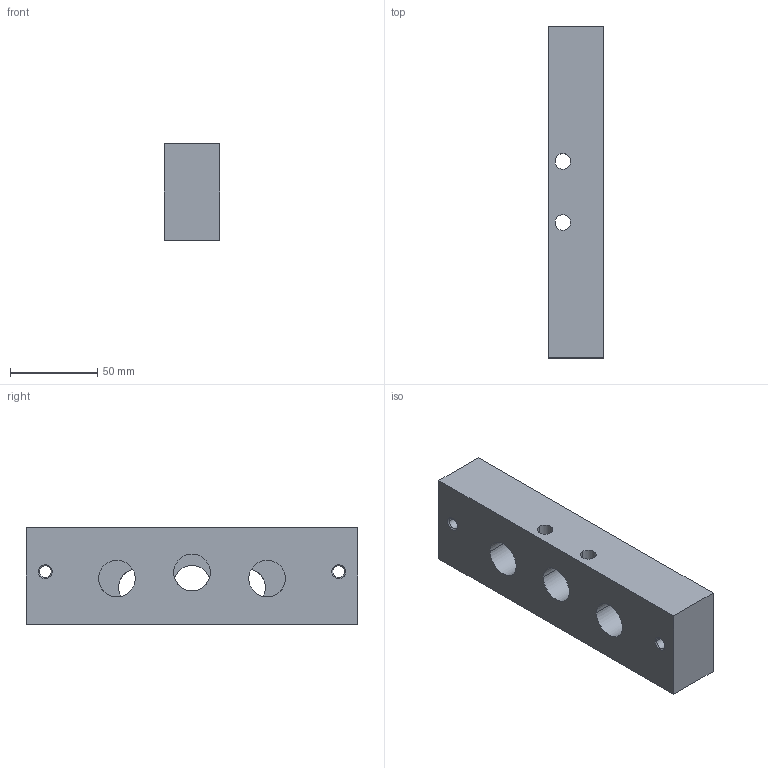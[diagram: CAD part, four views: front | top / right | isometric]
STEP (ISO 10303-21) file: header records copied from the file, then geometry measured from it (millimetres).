
FILE_DESCRIPTION((''),'2;1');
FILE_NAME('1825503165','2019-09-17T',('ahh2hc'),(''),'CREO PARAMETRIC BY PTC INC, 2016260','CREO PARAMETRIC BY PTC INC, 2016260','');
FILE_SCHEMA(('CONFIG_CONTROL_DESIGN'));
Length unit declared in the file: millimetre
Products named in the file (1): 1825503165
Bounding box: 32 x 190 x 55 mm (x, y, z)
Volume: 291099.9 mm3; surface area: 46697.2 mm2
Topology: 1 solids, 1 shells, 50 faces, 120 edges, 74 vertices
Faces by surface type: cylinder 24, plane 14, cone 12
Entity records: 1551 total; most frequent: DIRECTION 292, CARTESIAN_POINT 244, ORIENTED_EDGE 240, AXIS2_PLACEMENT_3D 122, EDGE_CURVE 120, VERTEX_POINT 74, CIRCLE 72, EDGE_LOOP 66
